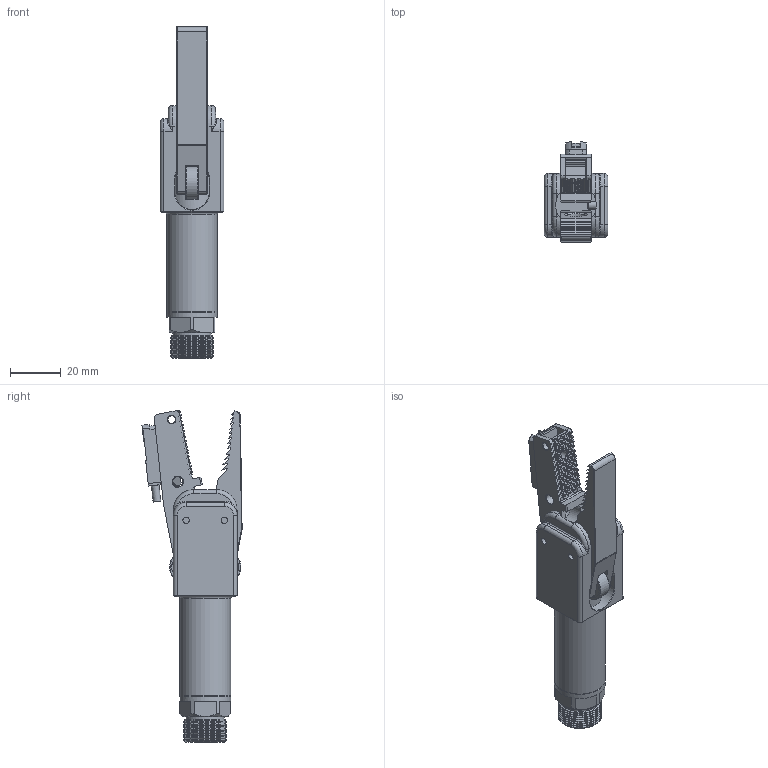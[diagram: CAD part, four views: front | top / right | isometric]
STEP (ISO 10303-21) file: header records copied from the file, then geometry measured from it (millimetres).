
FILE_DESCRIPTION(/* description */ (''),/* implementation_level */ '2;1');
FILE_NAME(/* name */ 'GRT20B-CN.stp',/* time_stamp */ '2023-03-09T10:57:47+08:00',/* author */ (''),/* organization */ (''),/* preprocessor_version */ 'ST-DEVELOPER v16',/* originating_system */ 'SIEMENS PLM Software NX 10.0',/* authorisation */ '');
FILE_SCHEMA (('AUTOMOTIVE_DESIGN { 1 0 10303 214 3 1 1 1 }'));
Length unit declared in the file: millimetre
Products named in the file (1): Admi115498B06jsa
Bounding box: 25 x 39.32 x 130.31 mm (x, y, z)
Volume: 43817.5 mm3; surface area: 19231.6 mm2
Topology: 3 solids, 5 shells, 916 faces, 2449 edges, 1586 vertices
Faces by surface type: plane 660, cylinder 153, cone 69, torus 24, bspline 10
Full cylindrical faces by diameter (mm): 0.5 x1, 1 x2, 2 x1, 2.5 x3, 3 x5, 3.1 x1, 3.3 x1, 3.4 x1, 4 x7, 5.5 x1, 5.54 x1, 7 x1, 8 x2, 8.8 x3, 15 x1, 16 x1, 17 x8, 20 x2
Entity records: 32621 total; most frequent: CARTESIAN_POINT 6207, ORIENTED_EDGE 4666, DIRECTION 4407, EDGE_CURVE 2333, LINE 1783, VECTOR 1783, VERTEX_POINT 1563, AXIS2_PLACEMENT_3D 1312
